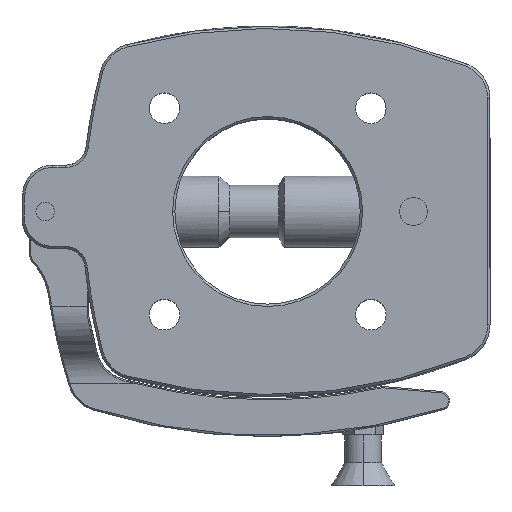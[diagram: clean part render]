
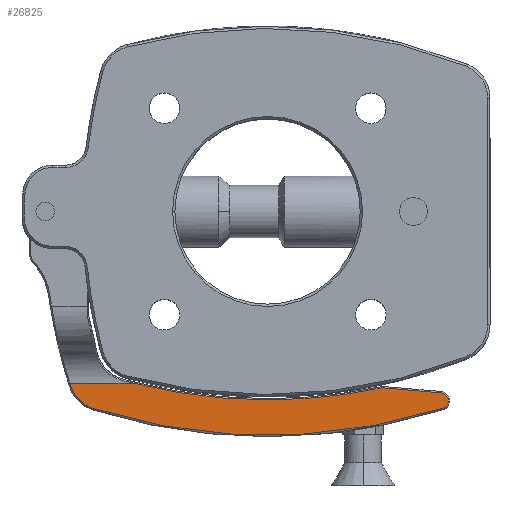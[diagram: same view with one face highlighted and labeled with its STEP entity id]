
A CAD part, top view. The second image highlights one B-rep face of the part: STEP entity #26825.
In plain terms, the highlighted planar face has unit normal (0, 0, 1).
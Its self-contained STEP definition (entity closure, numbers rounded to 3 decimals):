
#483 = CARTESIAN_POINT ( 'NONE',  ( 77.44, 0., 10.3 ) ) ;
#1227 = VERTEX_POINT ( 'NONE', #10748 ) ;
#1586 = ORIENTED_EDGE ( 'NONE', *, *, #21139, .T. ) ;
#1619 = CARTESIAN_POINT ( 'NONE',  ( 37.816, -42.437, 10.3 ) ) ;
#2656 = EDGE_CURVE ( 'NONE', #14378, #25958, #29258, .T. ) ;
#2704 = LINE ( 'NONE', #15474, #6351 ) ;
#2850 = ORIENTED_EDGE ( 'NONE', *, *, #21215, .T. ) ;
#3444 = DIRECTION ( 'NONE',  ( 0., 1., 0. ) ) ;
#3668 = DIRECTION ( 'NONE',  ( 0., -1., 0. ) ) ;
#3808 = AXIS2_PLACEMENT_3D ( 'NONE', #18784, #26890, #26556 ) ;
#3903 = EDGE_CURVE ( 'NONE', #19958, #14378, #19394, .T. ) ;
#4008 = DIRECTION ( 'NONE',  ( 0., -1., 0. ) ) ;
#4129 = CARTESIAN_POINT ( 'NONE',  ( 0., 77.44, 10.3 ) ) ;
#4508 = AXIS2_PLACEMENT_3D ( 'NONE', #29329, #8589, #3444 ) ;
#5281 = FACE_OUTER_BOUND ( 'NONE', #24794, .T. ) ;
#5360 = VERTEX_POINT ( 'NONE', #14568 ) ;
#5442 = DIRECTION ( 'NONE',  ( 0., 0., -1. ) ) ;
#5455 = ORIENTED_EDGE ( 'NONE', *, *, #9605, .F. ) ;
#5464 = VECTOR ( 'NONE', #23302, 1000. ) ;
#5495 = AXIS2_PLACEMENT_3D ( 'NONE', #19258, #24277, #3668 ) ;
#5943 = DIRECTION ( 'NONE',  ( 0., 1., 0. ) ) ;
#6351 = VECTOR ( 'NONE', #20815, 1000. ) ;
#7270 = AXIS2_PLACEMENT_3D ( 'NONE', #4129, #14280, #4008 ) ;
#8097 = ORIENTED_EDGE ( 'NONE', *, *, #33768, .T. ) ;
#8116 = DIRECTION ( 'NONE',  ( 0., 0., -1. ) ) ;
#8350 = PLANE ( 'NONE',  #4508 ) ;
#8589 = DIRECTION ( 'NONE',  ( 0., 0., -1. ) ) ;
#9504 = CIRCLE ( 'NONE', #5495, 118.065 ) ;
#9605 = EDGE_CURVE ( 'NONE', #25958, #28568, #27061, .T. ) ;
#10428 = CARTESIAN_POINT ( 'NONE',  ( 39.305, -37., 10.3 ) ) ;
#10748 = CARTESIAN_POINT ( 'NONE',  ( -29.03, -37., 10.3 ) ) ;
#11097 = AXIS2_PLACEMENT_3D ( 'NONE', #21090, #8116, #13258 ) ;
#13258 = DIRECTION ( 'NONE',  ( 0., 1., 0. ) ) ;
#14280 = DIRECTION ( 'NONE',  ( 0., 0., -1. ) ) ;
#14378 = VERTEX_POINT ( 'NONE', #20984 ) ;
#14568 = CARTESIAN_POINT ( 'NONE',  ( 37.453, -39.122, 10.3 ) ) ;
#15474 = CARTESIAN_POINT ( 'NONE',  ( 37.453, -39.122, 10.3 ) ) ;
#17561 = CIRCLE ( 'NONE', #3808, 1.7 ) ;
#18784 = CARTESIAN_POINT ( 'NONE',  ( 37.305, -40.815, 10.3 ) ) ;
#19254 = CARTESIAN_POINT ( 'NONE',  ( 24.719, -38.008, 10.3 ) ) ;
#19258 = CARTESIAN_POINT ( 'NONE',  ( 0., 77.44, 10.3 ) ) ;
#19341 = VERTEX_POINT ( 'NONE', #19254 ) ;
#19394 = CIRCLE ( 'NONE', #11097, 125.7 ) ;
#19958 = VERTEX_POINT ( 'NONE', #1619 ) ;
#20815 = DIRECTION ( 'NONE',  ( -0.996, 0.087, 0. ) ) ;
#20984 = CARTESIAN_POINT ( 'NONE',  ( -37.487, -42.54, 10.3 ) ) ;
#21047 = CARTESIAN_POINT ( 'NONE',  ( -35.19, -35.19, 10.3 ) ) ;
#21090 = CARTESIAN_POINT ( 'NONE',  ( 0., 77.44, 10.3 ) ) ;
#21139 = EDGE_CURVE ( 'NONE', #19341, #22269, #9504, .T. ) ;
#21215 = EDGE_CURVE ( 'NONE', #22269, #1227, #31893, .T. ) ;
#21221 = CARTESIAN_POINT ( 'NONE',  ( 0., -40.625, 10.3 ) ) ;
#21526 = ORIENTED_EDGE ( 'NONE', *, *, #3903, .F. ) ;
#22188 = ORIENTED_EDGE ( 'NONE', *, *, #31819, .T. ) ;
#22269 = VERTEX_POINT ( 'NONE', #21221 ) ;
#23161 = EDGE_CURVE ( 'NONE', #5360, #19958, #17561, .T. ) ;
#23302 = DIRECTION ( 'NONE',  ( -1., 0., 0. ) ) ;
#23870 = ORIENTED_EDGE ( 'NONE', *, *, #2656, .F. ) ;
#24277 = DIRECTION ( 'NONE',  ( 0., 0., -1. ) ) ;
#24311 = CARTESIAN_POINT ( 'NONE',  ( -42.691, -37., 10.3 ) ) ;
#24794 = EDGE_LOOP ( 'NONE', ( #5455, #23870, #21526, #29538, #22188, #1586, #2850, #8097 ) ) ;
#25958 = VERTEX_POINT ( 'NONE', #32403 ) ;
#26320 = DIRECTION ( 'NONE',  ( 0., 1., 0. ) ) ;
#26556 = DIRECTION ( 'NONE',  ( 0., 1., 0. ) ) ;
#26825 = ADVANCED_FACE ( 'NONE', ( #5281 ), #8350, .F. ) ;
#26890 = DIRECTION ( 'NONE',  ( 0., 0., -1. ) ) ;
#27061 = CIRCLE ( 'NONE', #32340, 125.7 ) ;
#27930 = LINE ( 'NONE', #10428, #5464 ) ;
#28568 = VERTEX_POINT ( 'NONE', #24311 ) ;
#29203 = DIRECTION ( 'NONE',  ( 0., 0., -1. ) ) ;
#29258 = CIRCLE ( 'NONE', #32706, 7.7 ) ;
#29329 = CARTESIAN_POINT ( 'NONE',  ( 39.305, -37., 10.3 ) ) ;
#29538 = ORIENTED_EDGE ( 'NONE', *, *, #23161, .F. ) ;
#31819 = EDGE_CURVE ( 'NONE', #5360, #19341, #2704, .T. ) ;
#31893 = CIRCLE ( 'NONE', #7270, 118.065 ) ;
#32340 = AXIS2_PLACEMENT_3D ( 'NONE', #483, #29203, #5943 ) ;
#32403 = CARTESIAN_POINT ( 'NONE',  ( -42.54, -37.487, 10.3 ) ) ;
#32706 = AXIS2_PLACEMENT_3D ( 'NONE', #21047, #5442, #26320 ) ;
#33768 = EDGE_CURVE ( 'NONE', #1227, #28568, #27930, .T. ) ;
